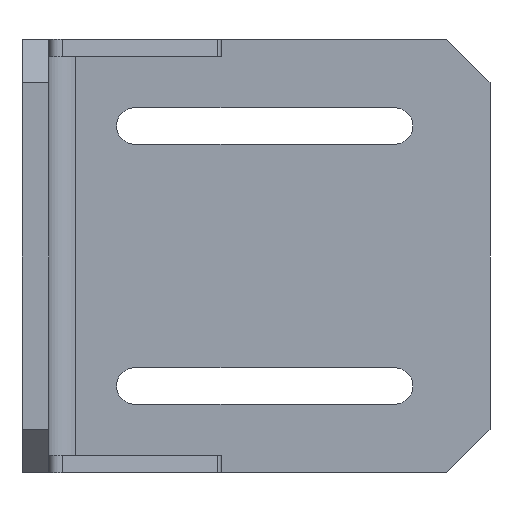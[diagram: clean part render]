
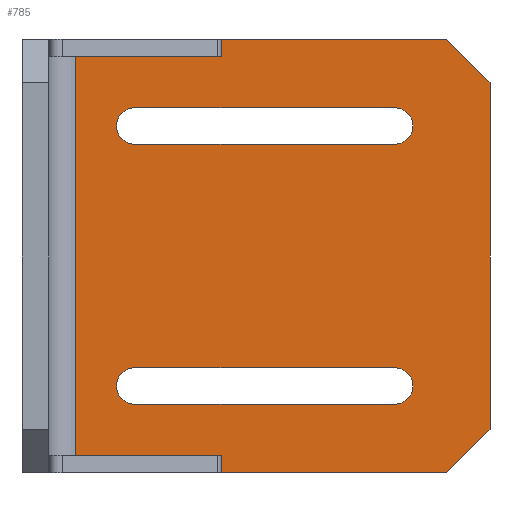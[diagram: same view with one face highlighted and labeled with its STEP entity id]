
A CAD part, left-side view. The second image highlights one B-rep face of the part: STEP entity #785.
In plain terms, the highlighted planar face has unit normal (-1, 0, 0).
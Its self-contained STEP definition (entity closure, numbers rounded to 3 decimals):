
#20=FACE_BOUND('',#125,.T.);
#21=FACE_BOUND('',#126,.T.);
#38=CIRCLE('',#857,2.1);
#39=CIRCLE('',#858,2.1);
#40=CIRCLE('',#859,2.1);
#41=CIRCLE('',#860,2.1);
#80=FACE_OUTER_BOUND('',#124,.T.);
#124=EDGE_LOOP('',(#566,#567,#568,#569,#570,#571,#572,#573,#574,#575,#576,
#577,#578,#579));
#125=EDGE_LOOP('',(#580,#581,#582,#583));
#126=EDGE_LOOP('',(#584,#585,#586,#587));
#167=LINE('',#1141,#252);
#171=LINE('',#1153,#256);
#177=LINE('',#1168,#262);
#189=LINE('',#1203,#274);
#190=LINE('',#1205,#275);
#191=LINE('',#1207,#276);
#192=LINE('',#1209,#277);
#193=LINE('',#1211,#278);
#194=LINE('',#1213,#279);
#195=LINE('',#1215,#280);
#196=LINE('',#1217,#281);
#197=LINE('',#1219,#282);
#198=LINE('',#1221,#283);
#199=LINE('',#1222,#284);
#200=LINE('',#1227,#285);
#201=LINE('',#1230,#286);
#202=LINE('',#1235,#287);
#203=LINE('',#1238,#288);
#252=VECTOR('',#915,10.);
#256=VECTOR('',#925,10.);
#262=VECTOR('',#941,10.);
#274=VECTOR('',#967,10.);
#275=VECTOR('',#968,10.);
#276=VECTOR('',#969,10.);
#277=VECTOR('',#970,10.);
#278=VECTOR('',#971,10.);
#279=VECTOR('',#972,10.);
#280=VECTOR('',#973,10.);
#281=VECTOR('',#974,10.);
#282=VECTOR('',#975,10.);
#283=VECTOR('',#976,10.);
#284=VECTOR('',#977,10.);
#285=VECTOR('',#980,10.);
#286=VECTOR('',#983,10.);
#287=VECTOR('',#986,10.);
#288=VECTOR('',#989,10.);
#337=VERTEX_POINT('',#1138);
#338=VERTEX_POINT('',#1140);
#340=VERTEX_POINT('',#1146);
#343=VERTEX_POINT('',#1151);
#363=VERTEX_POINT('',#1202);
#364=VERTEX_POINT('',#1204);
#365=VERTEX_POINT('',#1206);
#366=VERTEX_POINT('',#1208);
#367=VERTEX_POINT('',#1210);
#368=VERTEX_POINT('',#1212);
#369=VERTEX_POINT('',#1214);
#370=VERTEX_POINT('',#1216);
#371=VERTEX_POINT('',#1218);
#372=VERTEX_POINT('',#1220);
#373=VERTEX_POINT('',#1223);
#374=VERTEX_POINT('',#1224);
#375=VERTEX_POINT('',#1226);
#376=VERTEX_POINT('',#1228);
#377=VERTEX_POINT('',#1231);
#378=VERTEX_POINT('',#1232);
#379=VERTEX_POINT('',#1234);
#380=VERTEX_POINT('',#1236);
#411=EDGE_CURVE('',#338,#337,#167,.T.);
#417=EDGE_CURVE('',#343,#340,#171,.T.);
#425=EDGE_CURVE('',#343,#338,#177,.T.);
#442=EDGE_CURVE('',#337,#363,#189,.T.);
#443=EDGE_CURVE('',#363,#364,#190,.T.);
#444=EDGE_CURVE('',#364,#365,#191,.T.);
#445=EDGE_CURVE('',#365,#366,#192,.T.);
#446=EDGE_CURVE('',#366,#367,#193,.T.);
#447=EDGE_CURVE('',#368,#367,#194,.T.);
#448=EDGE_CURVE('',#368,#369,#195,.T.);
#449=EDGE_CURVE('',#369,#370,#196,.T.);
#450=EDGE_CURVE('',#370,#371,#197,.T.);
#451=EDGE_CURVE('',#371,#372,#198,.T.);
#452=EDGE_CURVE('',#372,#340,#199,.T.);
#453=EDGE_CURVE('',#373,#374,#38,.T.);
#454=EDGE_CURVE('',#374,#375,#200,.T.);
#455=EDGE_CURVE('',#375,#376,#39,.T.);
#456=EDGE_CURVE('',#376,#373,#201,.T.);
#457=EDGE_CURVE('',#377,#378,#40,.T.);
#458=EDGE_CURVE('',#378,#379,#202,.T.);
#459=EDGE_CURVE('',#379,#380,#41,.T.);
#460=EDGE_CURVE('',#380,#377,#203,.T.);
#566=ORIENTED_EDGE('',*,*,#417,.F.);
#567=ORIENTED_EDGE('',*,*,#425,.T.);
#568=ORIENTED_EDGE('',*,*,#411,.T.);
#569=ORIENTED_EDGE('',*,*,#442,.T.);
#570=ORIENTED_EDGE('',*,*,#443,.T.);
#571=ORIENTED_EDGE('',*,*,#444,.T.);
#572=ORIENTED_EDGE('',*,*,#445,.T.);
#573=ORIENTED_EDGE('',*,*,#446,.T.);
#574=ORIENTED_EDGE('',*,*,#447,.F.);
#575=ORIENTED_EDGE('',*,*,#448,.T.);
#576=ORIENTED_EDGE('',*,*,#449,.T.);
#577=ORIENTED_EDGE('',*,*,#450,.T.);
#578=ORIENTED_EDGE('',*,*,#451,.T.);
#579=ORIENTED_EDGE('',*,*,#452,.T.);
#580=ORIENTED_EDGE('',*,*,#453,.T.);
#581=ORIENTED_EDGE('',*,*,#454,.T.);
#582=ORIENTED_EDGE('',*,*,#455,.T.);
#583=ORIENTED_EDGE('',*,*,#456,.T.);
#584=ORIENTED_EDGE('',*,*,#457,.T.);
#585=ORIENTED_EDGE('',*,*,#458,.T.);
#586=ORIENTED_EDGE('',*,*,#459,.T.);
#587=ORIENTED_EDGE('',*,*,#460,.T.);
#759=PLANE('',#856);
#785=ADVANCED_FACE('',(#80,#20,#21),#759,.F.);
#856=AXIS2_PLACEMENT_3D('',#1201,#965,#966);
#857=AXIS2_PLACEMENT_3D('',#1225,#978,#979);
#858=AXIS2_PLACEMENT_3D('',#1229,#981,#982);
#859=AXIS2_PLACEMENT_3D('',#1233,#984,#985);
#860=AXIS2_PLACEMENT_3D('',#1237,#987,#988);
#915=DIRECTION('',(0.,0.,1.));
#925=DIRECTION('',(0.,0.,1.));
#941=DIRECTION('',(0.,1.,0.));
#965=DIRECTION('center_axis',(1.,0.,0.));
#966=DIRECTION('ref_axis',(0.,0.,1.));
#967=DIRECTION('',(0.,1.,0.));
#968=DIRECTION('',(0.,0.,-1.));
#969=DIRECTION('',(0.,-1.,0.));
#970=DIRECTION('',(0.,0.,1.));
#971=DIRECTION('',(0.,-1.,0.));
#972=DIRECTION('',(0.,0.,1.));
#973=DIRECTION('',(0.,-1.,0.));
#974=DIRECTION('',(0.,-0.707,0.707));
#975=DIRECTION('',(0.,0.,1.));
#976=DIRECTION('',(0.,0.707,0.707));
#977=DIRECTION('',(0.,1.,0.));
#978=DIRECTION('center_axis',(1.,0.,0.));
#979=DIRECTION('ref_axis',(0.,0.,1.));
#980=DIRECTION('',(0.,1.,0.));
#981=DIRECTION('center_axis',(1.,0.,0.));
#982=DIRECTION('ref_axis',(0.,0.,-1.));
#983=DIRECTION('',(0.,-1.,0.));
#984=DIRECTION('center_axis',(1.,0.,0.));
#985=DIRECTION('ref_axis',(0.,0.,1.));
#986=DIRECTION('',(0.,-1.,0.));
#987=DIRECTION('center_axis',(1.,0.,0.));
#988=DIRECTION('ref_axis',(0.,0.,-1.));
#989=DIRECTION('',(0.,1.,0.));
#1138=CARTESIAN_POINT('',(-1.656,-4.1,25.));
#1140=CARTESIAN_POINT('',(-1.656,-4.1,23.));
#1141=CARTESIAN_POINT('',(-1.656,-4.1,12.5));
#1146=CARTESIAN_POINT('',(-1.656,-18.9,25.));
#1151=CARTESIAN_POINT('',(-1.656,-18.9,23.));
#1153=CARTESIAN_POINT('',(-1.656,-18.9,25.));
#1168=CARTESIAN_POINT('',(-1.656,-5.397,23.));
#1201=CARTESIAN_POINT('Origin',(-1.656,-0.844,0.));
#1202=CARTESIAN_POINT('',(-1.656,-3.1,25.));
#1203=CARTESIAN_POINT('',(-1.656,-45.9,25.));
#1204=CARTESIAN_POINT('',(-1.656,-3.1,-25.));
#1205=CARTESIAN_POINT('',(-1.656,-3.1,-12.5));
#1206=CARTESIAN_POINT('',(-1.656,-4.1,-25.));
#1207=CARTESIAN_POINT('',(-1.656,44.212,-25.));
#1208=CARTESIAN_POINT('',(-1.656,-4.1,-23.));
#1209=CARTESIAN_POINT('',(-1.656,-4.1,-12.5));
#1210=CARTESIAN_POINT('',(-1.656,-18.9,-23.));
#1211=CARTESIAN_POINT('',(-1.656,-5.397,-23.));
#1212=CARTESIAN_POINT('',(-1.656,-18.9,-25.));
#1213=CARTESIAN_POINT('',(-1.656,-18.9,-25.));
#1214=CARTESIAN_POINT('',(-1.656,-45.9,-25.));
#1215=CARTESIAN_POINT('',(-1.656,44.212,-25.));
#1216=CARTESIAN_POINT('',(-1.656,-50.9,-20.));
#1217=CARTESIAN_POINT('',(-1.656,-45.9,-25.));
#1218=CARTESIAN_POINT('',(-1.656,-50.9,20.));
#1219=CARTESIAN_POINT('',(-1.656,-50.9,-20.));
#1220=CARTESIAN_POINT('',(-1.656,-45.9,25.));
#1221=CARTESIAN_POINT('',(-1.656,-50.9,20.));
#1222=CARTESIAN_POINT('',(-1.656,-45.9,25.));
#1223=CARTESIAN_POINT('',(-1.656,-39.9,-12.9));
#1224=CARTESIAN_POINT('',(-1.656,-39.9,-17.1));
#1225=CARTESIAN_POINT('Origin',(-1.656,-39.9,-15.));
#1226=CARTESIAN_POINT('',(-1.656,-9.9,-17.1));
#1227=CARTESIAN_POINT('',(-1.656,-5.372,-17.1));
#1228=CARTESIAN_POINT('',(-1.656,-9.9,-12.9));
#1229=CARTESIAN_POINT('Origin',(-1.656,-9.9,-15.));
#1230=CARTESIAN_POINT('',(-1.656,-20.372,-12.9));
#1231=CARTESIAN_POINT('',(-1.656,-9.9,12.9));
#1232=CARTESIAN_POINT('',(-1.656,-9.9,17.1));
#1233=CARTESIAN_POINT('Origin',(-1.656,-9.9,15.));
#1234=CARTESIAN_POINT('',(-1.656,-39.9,17.1));
#1235=CARTESIAN_POINT('',(-1.656,-20.372,17.1));
#1236=CARTESIAN_POINT('',(-1.656,-39.9,12.9));
#1237=CARTESIAN_POINT('Origin',(-1.656,-39.9,15.));
#1238=CARTESIAN_POINT('',(-1.656,-5.372,12.9));
